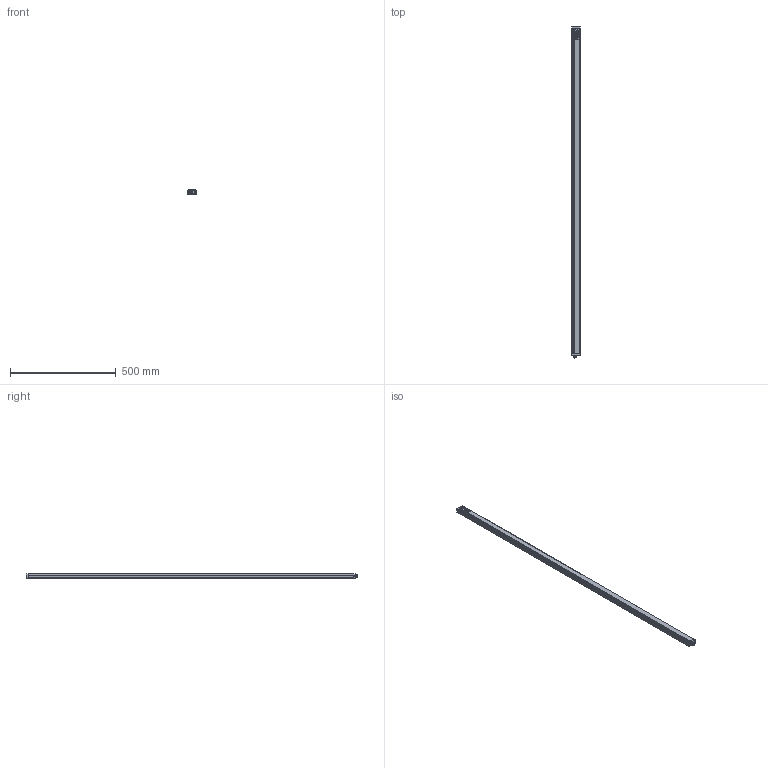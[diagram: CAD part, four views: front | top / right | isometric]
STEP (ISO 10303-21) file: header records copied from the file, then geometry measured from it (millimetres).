
FILE_DESCRIPTION(/* description */ (''),/* implementation_level */ '2;1');
FILE_NAME(/* name */ 'C:\Users\andre\SynologyDrive\Optoscan\Libreria Componenti\00 - Barriere\Polaris sorgente\Polaris_1540_TX.stp',/* time_stamp */ '2021-06-04T11:06:13+02:00',/* author */ ('andre'),/* organization */ (''),/* preprocessor_version */ 'ST-DEVELOPER v18',/* originating_system */ 'Autodesk Inventor 2020',/* authorisation */ '');
FILE_SCHEMA (('AUTOMOTIVE_DESIGN { 1 0 10303 214 3 1 1 }'));
Length unit declared in the file: millimetre
Products named in the file (1): Polaris_1540_TX
Bounding box: 40.5 x 1568.8 x 20.75 mm (x, y, z)
Volume: 309229.4 mm3; surface area: 408173.1 mm2
Topology: 1 solids, 1 shells, 738 faces, 2048 edges, 1320 vertices
Faces by surface type: plane 331, cylinder 207, bspline 115, torus 71, cone 8, sphere 6
Full cylindrical faces by diameter (mm): 1 x8, 2.459 x4, 2.5 x4, 3 x4, 3.5 x4, 5.5 x4, 8 x1, 10.5 x2, 11.75 x9, 12 x1, 12.3 x2, 14.5 x1, 16.7 x1, 17.5 x1
Entity records: 30426 total; most frequent: CARTESIAN_POINT 11243, ORIENTED_EDGE 4082, DIRECTION 3549, EDGE_CURVE 2041, VERTEX_POINT 1321, AXIS2_PLACEMENT_3D 1243, LINE 1063, VECTOR 1063
